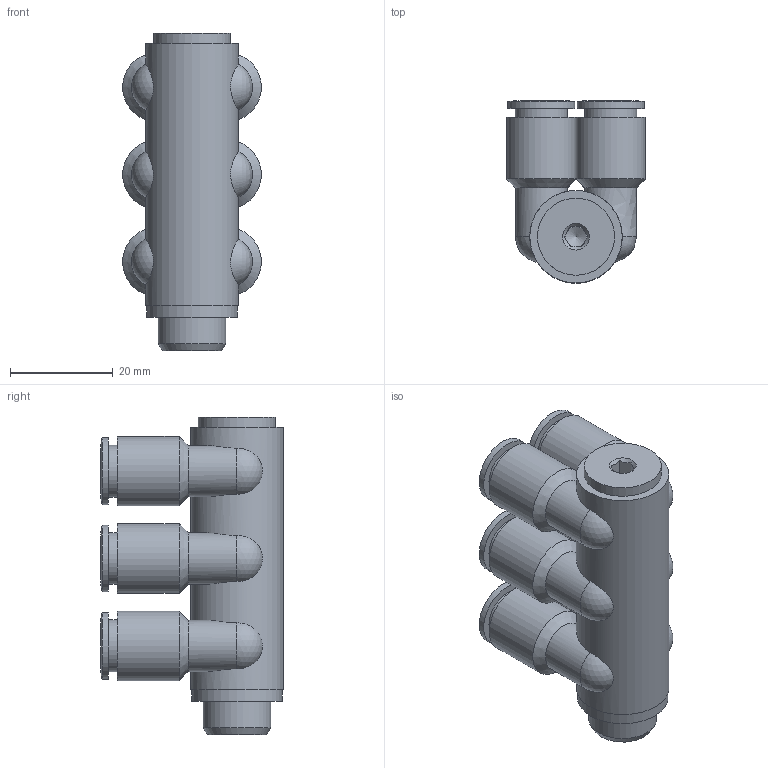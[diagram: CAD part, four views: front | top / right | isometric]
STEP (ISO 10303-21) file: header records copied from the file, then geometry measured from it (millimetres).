
FILE_DESCRIPTION((''),'2;1');
FILE_NAME('C:\Documents and Settings\rivolro1\Documenti\copia di Raccordi\PLASTICA\T34BXXXX\T34B0814.stp','2007-11-03T09:08:40',('Rivolro1'),(''),'Autodesk Inventor 2008','Autodesk Inventor 2008','');
FILE_SCHEMA(('AUTOMOTIVE_DESIGN { 1 0 10303 214 1 1 1 1 }'));
Length unit declared in the file: millimetre
Products named in the file (1): T34B0814
Bounding box: 27 x 35.5 x 61.8 mm (x, y, z)
Volume: 23286.6 mm3; surface area: 13910.7 mm2
Topology: 1 solids, 1 shells, 121 faces, 232 edges, 140 vertices
Faces by surface type: bspline 60, plane 26, cylinder 25, cone 7, sphere 3
Full cylindrical faces by diameter (mm): 6.2 x3, 10 x3, 10.1 x3, 13 x3, 13.2 x1, 13.5 x3, 15 x1, 17.6 x1, 18 x1
Entity records: 4235 total; most frequent: CARTESIAN_POINT 2181, DIRECTION 356, ORIENTED_EDGE 322, EDGE_LOOP 204, AXIS2_PLACEMENT_3D 163, EDGE_CURVE 161, FACE_OUTER_BOUND 121, ADVANCED_FACE 121
